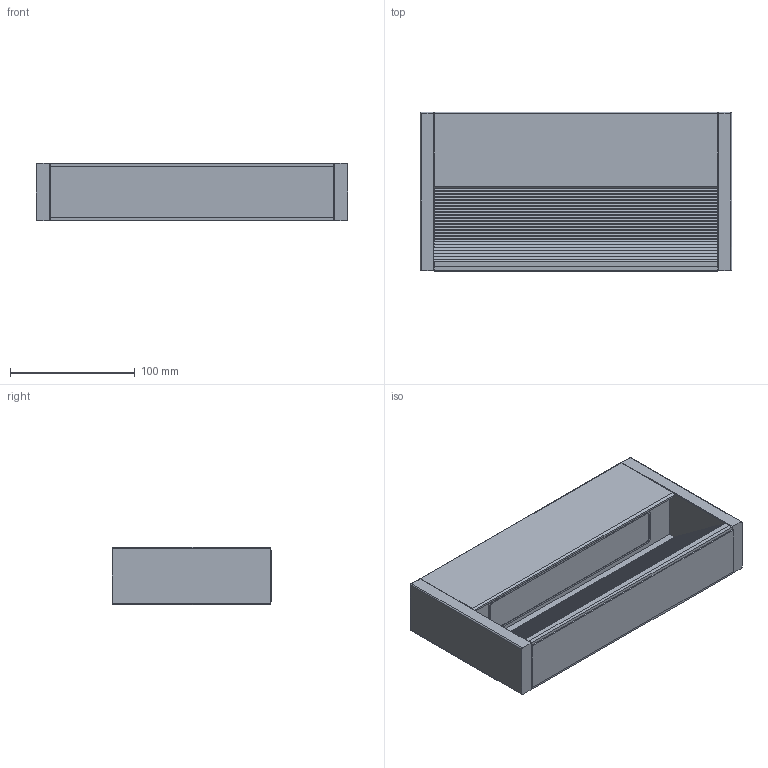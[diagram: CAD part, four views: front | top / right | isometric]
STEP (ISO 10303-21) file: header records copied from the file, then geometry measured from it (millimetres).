
FILE_DESCRIPTION(/* description */ (''),/* implementation_level */ '2;1');
FILE_NAME(/* name */ 'C:\Users\FrancoSartori\Documents\FARO\01_En Proceso\000_GRADA\03_Publicación\70909.stp',/* time_stamp */ '2021-07-27T14:38:02+02:00',/* author */ ('FrancoSartori'),/* organization */ (''),/* preprocessor_version */ 'ST-DEVELOPER v18.1',/* originating_system */ 'AutoCAD Mechanical',/* authorisation */ '');
FILE_SCHEMA (('AUTOMOTIVE_DESIGN { 1 0 10303 214 3 1 1 }'));
Length unit declared in the file: millimetre
Products named in the file (2): Product; 70908_70909_GRADA - GRADA-449694-Export
Assembly tree (1 placements, depth 2):
  Product
    70908_70909_GRADA - GRADA-449694-Export
Bounding box: 250 x 128 x 46.01 mm (x, y, z)
Volume: 1006447.5 mm3; surface area: 173727.8 mm2
Topology: 5 solids, 6 shells, 205 faces, 578 edges, 384 vertices
Faces by surface type: plane 173, cylinder 32
Entity records: 6654 total; most frequent: CARTESIAN_POINT 1202, ORIENTED_EDGE 1148, DIRECTION 1050, EDGE_CURVE 578, LINE 514, VECTOR 514, VERTEX_POINT 384, AXIS2_PLACEMENT_3D 268
